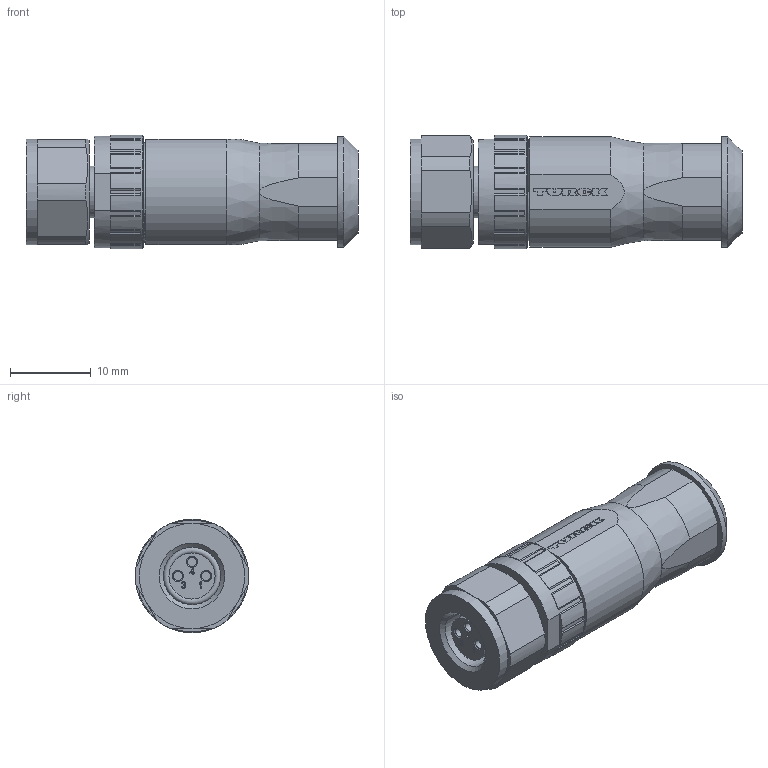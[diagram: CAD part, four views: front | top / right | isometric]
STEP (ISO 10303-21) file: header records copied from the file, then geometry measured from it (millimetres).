
FILE_DESCRIPTION(/* description */ (''),/* implementation_level */ '2;1');
FILE_NAME(/* name */ 'K:\Step\42\42K1A1705_3pol.stp',/* time_stamp */ '2018-01-10T09:46:58+01:00',/* author */ ('RuthChristen'),/* organization */ (''),/* preprocessor_version */ 'ST-DEVELOPER v16.13',/* originating_system */ 'Autodesk Inventor 2018',/* authorisation */ '');
FILE_SCHEMA (('AUTOMOTIVE_DESIGN { 1 0 10303 214 3 1 1 }'));
Length unit declared in the file: millimetre
Products named in the file (1): Bauteil1
Bounding box: 41 x 14 x 14 mm (x, y, z)
Volume: 5401.9 mm3; surface area: 2489.3 mm2
Topology: 1 solids, 1 shells, 228 faces, 608 edges, 400 vertices
Faces by surface type: plane 162, bspline 27, cylinder 26, cone 12, torus 1
Full cylindrical faces by diameter (mm): 1.1 x3, 5.7 x1, 6.4 x1, 7.1 x1, 13 x1, 13.7 x1, 14 x1
Entity records: 7885 total; most frequent: CARTESIAN_POINT 2133, ORIENTED_EDGE 1166, DIRECTION 1043, EDGE_CURVE 583, VERTEX_POINT 393, LINE 383, VECTOR 383, AXIS2_PLACEMENT_3D 330
